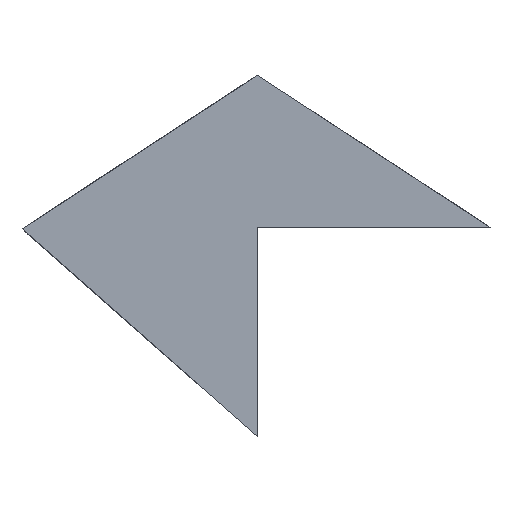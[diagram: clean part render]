
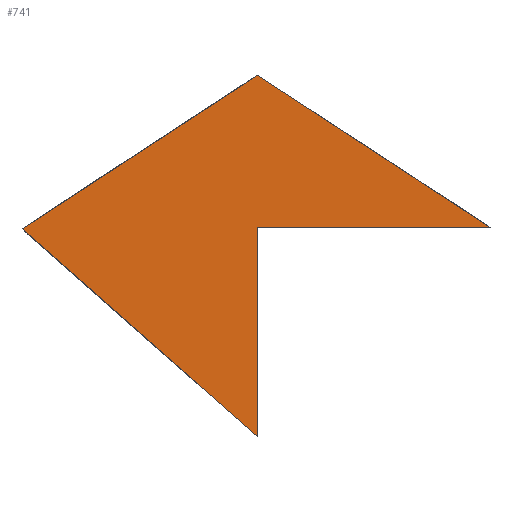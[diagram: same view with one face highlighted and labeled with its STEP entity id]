
A CAD part, left-side view. The second image highlights one B-rep face of the part: STEP entity #741.
In plain terms, the highlighted planar face has unit normal (-1, 0, 0).
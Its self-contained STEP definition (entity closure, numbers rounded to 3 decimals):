
#156=CARTESIAN_POINT('',(-19.331,422.,-20.5));
#157=VERTEX_POINT('',#156);
#166=CARTESIAN_POINT('',(-19.331,422.,-34.5));
#167=VERTEX_POINT('',#166);
#168=CARTESIAN_POINT('',(-19.331,422.,-20.5));
#169=DIRECTION('',(0.,0.,-1.));
#170=VECTOR('',#169,14.);
#171=LINE('',#168,#170);
#172=EDGE_CURVE('',#157,#167,#171,.T.);
#303=CARTESIAN_POINT('',(-19.331,437.725,-20.624));
#304=VERTEX_POINT('',#303);
#305=CARTESIAN_POINT('',(-19.331,422.,-34.5));
#306=DIRECTION('',(0.,0.75,0.662));
#307=VECTOR('',#306,20.972);
#308=LINE('',#305,#307);
#309=EDGE_CURVE('',#167,#304,#308,.T.);
#540=CARTESIAN_POINT('',(-19.331,422.02,-10.373));
#541=VERTEX_POINT('',#540);
#542=CARTESIAN_POINT('',(-19.331,422.02,-10.373));
#543=DIRECTION('',(0.,0.837,-0.547));
#544=VECTOR('',#543,18.755);
#545=LINE('',#542,#544);
#546=EDGE_CURVE('',#541,#304,#545,.T.);
#562=CARTESIAN_POINT('',(-19.331,406.475,-20.5));
#563=VERTEX_POINT('',#562);
#668=CARTESIAN_POINT('',(-19.331,406.475,-20.5));
#669=DIRECTION('',(0.,0.838,0.546));
#670=VECTOR('',#669,18.553);
#671=LINE('',#668,#670);
#672=EDGE_CURVE('',#563,#541,#671,.T.);
#713=CARTESIAN_POINT('',(-19.331,406.475,-20.5));
#714=DIRECTION('',(0.,1.,0.));
#715=VECTOR('',#714,15.525);
#716=LINE('',#713,#715);
#717=EDGE_CURVE('',#563,#157,#716,.T.);
#729=CARTESIAN_POINT('',(-19.331,0.,0.));
#730=DIRECTION('',(1.,0.,0.));
#731=DIRECTION('',(0.,1.,0.));
#732=AXIS2_PLACEMENT_3D('',#729,#730,#731);
#733=PLANE('',#732);
#734=ORIENTED_EDGE('',*,*,#309,.F.);
#735=ORIENTED_EDGE('',*,*,#172,.F.);
#736=ORIENTED_EDGE('',*,*,#717,.F.);
#737=ORIENTED_EDGE('',*,*,#672,.T.);
#738=ORIENTED_EDGE('',*,*,#546,.T.);
#739=EDGE_LOOP('',(#734,#735,#736,#737,#738));
#740=FACE_BOUND('',#739,.T.);
#741=ADVANCED_FACE('',(#740),#733,.F.);
